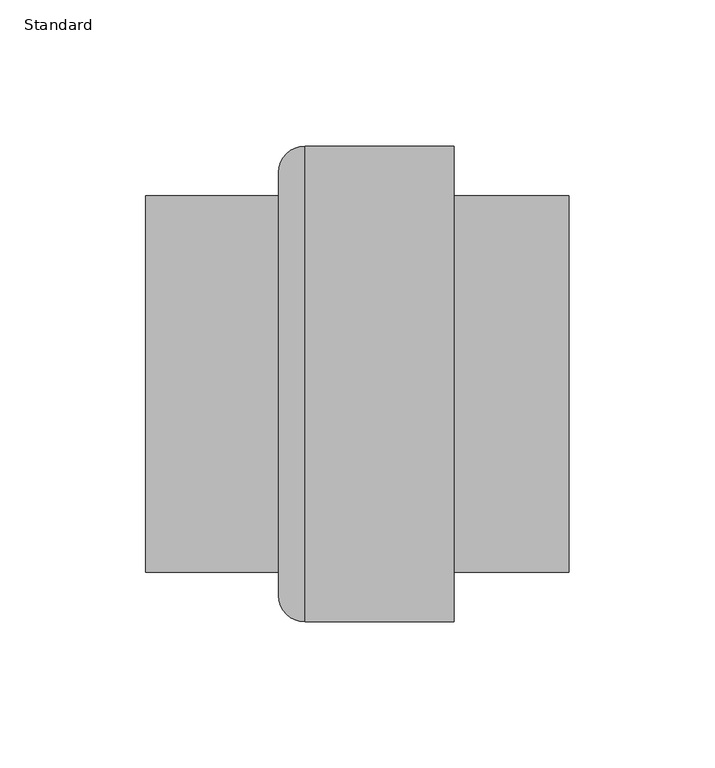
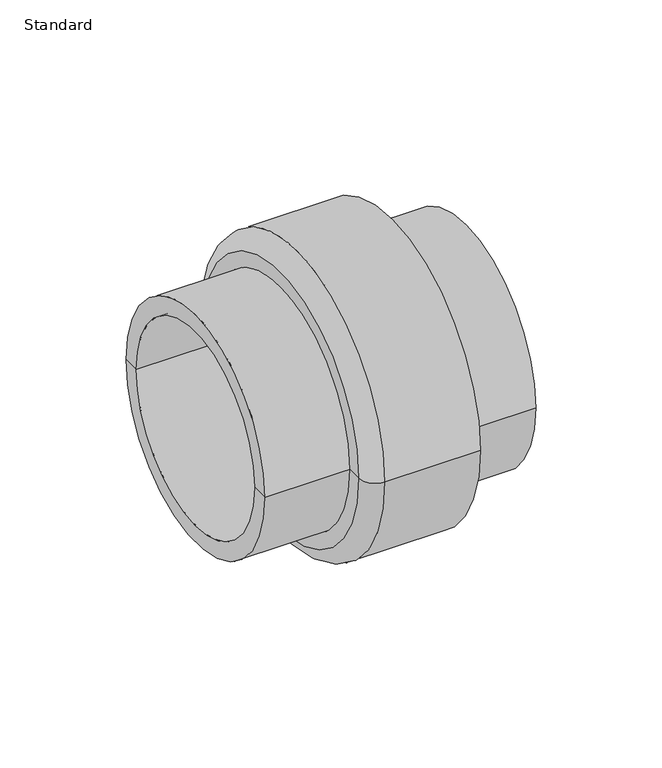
"""IFC4 building model written with IfcOpenShell, lengths in millimetres: pipe fitting geometry, Durapipe_PipeFitting_PVC_SocketUnions : Standard."""

from ifc_helpers import new_model, si_unit, point, frame, origin, place, context, project, spatial, polyline, circle_curve, ellipse_curve, trimmed, source, transform, mapped, element, save
from ifc_brep_helpers import plane_surface, cylinder_surface, revolved_surface, advanced_brep


def standard_4a5e7ea4(model_context):
    return source(origin(), model_context, "Body", "AdvancedBrep", [
        advanced_brep(
        [(-75.0, -64.5, 0.0), (-75.0, 64.5, 0.0), (-75.0, 72.5, 0.0), (-75.0, -72.5, 0.0), (-15.0, -81.5, 0.0), (-15.0, 81.5, 0.0), (-15.0, 64.5, 0.0), (-15.0, -64.5, 0.0), (-66.0, -81.5, 0.0), (-66.0, 81.5, 0.0)],
        [
            (0, 1, circle_curve(frame((-75.0, 0.0, 0.0), z_axis=(1.0, 0.0, 0.0), x_axis=(0.0, 1.0, 0.0)), 64.5)),
            (1, 2),
            (2, 3, circle_curve(frame((-75.0, 0.0, 0.0), z_axis=(-1.0, 0.0, 0.0), x_axis=(0.0, 1.0, 0.0)), 72.5)),
            (3, 0),
            (1, 0, circle_curve(frame((-75.0, 0.0, 0.0), z_axis=(1.0, 0.0, 0.0), x_axis=(0.0, 1.0, 0.0)), 64.5)),
            (3, 2, circle_curve(frame((-75.0, 0.0, 0.0), z_axis=(-1.0, 0.0, 0.0), x_axis=(0.0, 1.0, 0.0)), 72.5)),
            (4, 5, circle_curve(frame((-15.0, 0.0, 0.0), z_axis=(1.0, 0.0, 0.0), x_axis=(0.0, 1.0, 0.0)), 81.5)),
            (5, 6),
            (6, 7, circle_curve(frame((-15.0, 0.0, 0.0), z_axis=(-1.0, 0.0, 0.0), x_axis=(0.0, 1.0, 0.0)), 64.5)),
            (7, 4),
            (5, 4, circle_curve(frame((-15.0, 0.0, 0.0), z_axis=(1.0, 0.0, 0.0), x_axis=(0.0, 1.0, 0.0)), 81.5)),
            (7, 6, circle_curve(frame((-15.0, 0.0, 0.0), z_axis=(-1.0, 0.0, 0.0), x_axis=(0.0, 1.0, 0.0)), 64.5)),
            (8, 9, circle_curve(frame((-66.0, 0.0, 0.0), z_axis=(1.0, 0.0, 0.0), x_axis=(0.0, 1.0, 0.0)), 81.5)),
            (9, 5),
            (4, 8),
            (9, 8, circle_curve(frame((-66.0, 0.0, 0.0), z_axis=(1.0, 0.0, 0.0), x_axis=(0.0, 1.0, 0.0)), 81.5)),
            (2, 9, circle_curve(frame((-66.0, 72.5, 0.0), z_axis=(0.0, 0.0, -1.0), x_axis=(1.0, 0.0, 0.0)), 9.0)),
            (8, 3, circle_curve(frame((-66.0, -72.5, 0.0), z_axis=(0.0, 0.0, -1.0), x_axis=(1.0, 0.0, 0.0)), 9.0)),
            (6, 1),
            (0, 7),
        ],
        [
            plane_surface(frame((-75.0, 0.0, 0.0), z_axis=(-1.0, 0.0, 0.0), x_axis=(0.0, 1.0, 0.0))),
            plane_surface(frame((-15.0, 0.0, 0.0), z_axis=(1.0, 0.0, 0.0), x_axis=(0.0, 1.0, 0.0))),
            cylinder_surface(frame((2000.0, 0.0, 0.0), z_axis=(-1.0, 0.0, 0.0), x_axis=(0.0, 1.0, 0.0)), 81.5),
            revolved_surface(trimmed(ellipse_curve(frame((-66.0, 72.5, 0.0), z_axis=(0.0, 0.0, 1.0), x_axis=(1.0, 0.0, 0.0)), 9.0, 9.0), [point((-66.0, 81.5, 0.0))], [point((-75.0, 72.5, 0.0))], True, "CARTESIAN"), (2000.0, 0.0, 0.0), (-1.0, 0.0, 0.0)),
            revolved_surface(polyline([(-75.0, 64.5, 0.0), (-15.0, 64.5, 0.0)]), (2000.0, 0.0, 0.0), (-1.0, 0.0, 0.0)),
        ],
        [
            (0, [[1, 2, 3, 4]]),
            (0, [[5, -4, 6, -2]]),
            (1, [[7, 8, 9, 10]]),
            (1, [[11, -10, 12, -8]]),
            (2, [[13, 14, -7, 15]]),
            (2, [[16, -15, -11, -14]]),
            (3, [[-3, 17, -13, 18]]),
            (3, [[-6, -18, -16, -17]]),
            (4, [[-9, 19, -1, 20]]),
            (4, [[-12, -20, -5, -19]]),
        ],
    ),
        advanced_brep(
        [(-59.5, -55.0, 0.0), (-59.5, 55.0, 0.0), (-120.5, 55.0, 0.0), (-120.5, -55.0, 0.0), (-59.5, 0.0, 0.0), (-36.5, -55.0, 0.0), (-36.5, 55.0, 0.0), (-36.5, 0.0, 0.0), (-120.5, -64.5, 0.0), (-120.5, 64.5, 0.0), (24.5, 64.5, 0.0), (24.5, -64.5, 0.0), (24.5, -55.0, 0.0), (24.5, 55.0, 0.0)],
        [
            (0, 1, circle_curve(frame((-59.5, 0.0, 0.0), z_axis=(1.0, 0.0, 0.0), x_axis=(0.0, 1.0, 0.0)), 55.0)),
            (1, 2),
            (2, 3, circle_curve(frame((-120.5, 0.0, 0.0), z_axis=(-1.0, 0.0, 0.0), x_axis=(0.0, 1.0, 0.0)), 55.0)),
            (3, 0),
            (1, 0, circle_curve(frame((-59.5, 0.0, 0.0), z_axis=(1.0, 0.0, 0.0), x_axis=(0.0, 1.0, 0.0)), 55.0)),
            (3, 2, circle_curve(frame((-120.5, 0.0, 0.0), z_axis=(-1.0, 0.0, 0.0), x_axis=(0.0, 1.0, 0.0)), 55.0)),
            (4, 1),
            (0, 4),
            (5, 6, circle_curve(frame((-36.5, 0.0, 0.0), z_axis=(1.0, 0.0, 0.0), x_axis=(0.0, 1.0, 0.0)), 55.0)),
            (6, 7),
            (7, 5),
            (6, 5, circle_curve(frame((-36.5, 0.0, 0.0), z_axis=(1.0, 0.0, 0.0), x_axis=(0.0, 1.0, 0.0)), 55.0)),
            (8, 9, circle_curve(frame((-120.5, 0.0, 0.0), z_axis=(1.0, 0.0, 0.0), x_axis=(0.0, 1.0, 0.0)), 64.5)),
            (9, 10),
            (10, 11, circle_curve(frame((24.5, 0.0, 0.0), z_axis=(-1.0, 0.0, 0.0), x_axis=(0.0, 1.0, 0.0)), 64.5)),
            (11, 8),
            (9, 8, circle_curve(frame((-120.5, 0.0, 0.0), z_axis=(1.0, 0.0, 0.0), x_axis=(0.0, 1.0, 0.0)), 64.5)),
            (11, 10, circle_curve(frame((24.5, 0.0, 0.0), z_axis=(-1.0, 0.0, 0.0), x_axis=(0.0, 1.0, 0.0)), 64.5)),
            (2, 9),
            (8, 3),
            (12, 13, circle_curve(frame((24.5, 0.0, 0.0), z_axis=(1.0, 0.0, 0.0), x_axis=(0.0, 1.0, 0.0)), 55.0)),
            (13, 6),
            (5, 12),
            (13, 12, circle_curve(frame((24.5, 0.0, 0.0), z_axis=(1.0, 0.0, 0.0), x_axis=(0.0, 1.0, 0.0)), 55.0)),
            (10, 13),
            (12, 11),
        ],
        [
            revolved_surface(polyline([(-120.5, 55.0, 0.0), (-59.5, 55.0, 0.0)]), (2000.0, 0.0, 0.0), (-1.0, 0.0, 0.0)),
            plane_surface(frame((-59.5, 0.0, 0.0), z_axis=(-1.0, 0.0, 0.0), x_axis=(0.0, 1.0, 0.0))),
            plane_surface(frame((-36.5, 0.0, 0.0), z_axis=(1.0, 0.0, 0.0), x_axis=(0.0, 1.0, 0.0))),
            cylinder_surface(frame((2000.0, 0.0, 0.0), z_axis=(-1.0, 0.0, 0.0), x_axis=(0.0, 1.0, 0.0)), 64.5),
            plane_surface(frame((-120.5, 0.0, 0.0), z_axis=(-1.0, 0.0, 0.0), x_axis=(0.0, 1.0, 0.0))),
            revolved_surface(polyline([(-36.5, 55.0, 0.0), (24.5, 55.0, 0.0)]), (2000.0, 0.0, 0.0), (-1.0, 0.0, 0.0)),
            plane_surface(frame((24.5, 0.0, 0.0), z_axis=(1.0, 0.0, 0.0), x_axis=(0.0, 1.0, 0.0))),
        ],
        [
            (0, [[1, 2, 3, 4]]),
            (0, [[5, -4, 6, -2]]),
            (1, [[7, -1, 8]]),
            (1, [[-8, -5, -7]]),
            (2, [[9, 10, 11]]),
            (2, [[12, -11, -10]]),
            (3, [[13, 14, 15, 16]]),
            (3, [[17, -16, 18, -14]]),
            (4, [[-3, 19, -13, 20]]),
            (4, [[-6, -20, -17, -19]]),
            (5, [[21, 22, -9, 23]]),
            (5, [[24, -23, -12, -22]]),
            (6, [[-15, 25, -21, 26]]),
            (6, [[-18, -26, -24, -25]]),
        ],
    ),
    ])


if __name__ == "__main__":
    model = new_model("IFC4")
    model_context = context("Model", 3, world=origin())
    ifc_project = project(units=[si_unit("LENGTHUNIT", "METRE", prefix="MILLI")], contexts=[model_context])
    site = spatial("IfcSite", under=ifc_project)
    building = spatial("IfcBuilding", under=site)
    placement = place(None, origin())
    standard_shape = standard_4a5e7ea4(model_context)
    element("IfcPipeFitting", 1, ObjectType="Durapipe_PipeFitting_PVC_SocketUnions : Standard", at=placement, inside=building, context=model_context, shape_type="MappedRepresentation", body=[
        mapped(standard_shape, transform((0.0, 0.0, 0.0), x_axis=(1.0, 0.0, 0.0), y_axis=(0.0, 1.0, 0.0), z_axis=(0.0, 0.0, 1.0))),
    ])
    save(model, "model.ifc")
